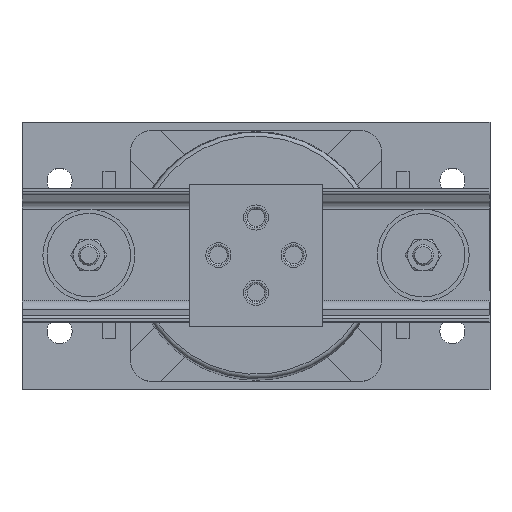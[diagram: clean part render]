
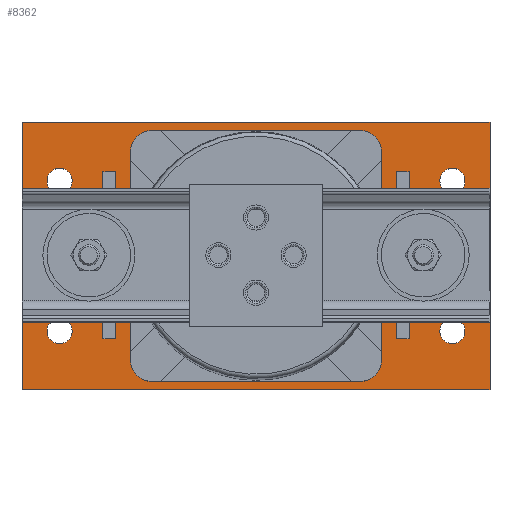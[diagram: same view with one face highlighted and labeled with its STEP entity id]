
A CAD part, top view. The second image highlights one B-rep face of the part: STEP entity #8362.
In plain terms, the highlighted planar face has unit normal (0, 0, 1).
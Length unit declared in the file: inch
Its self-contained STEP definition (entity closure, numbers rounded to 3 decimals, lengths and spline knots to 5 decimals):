
#453=FACE_BOUND('',#1636,.T.);
#454=FACE_BOUND('',#1637,.T.);
#455=FACE_BOUND('',#1638,.T.);
#456=FACE_BOUND('',#1639,.T.);
#653=CIRCLE('',#8949,0.375);
#655=CIRCLE('',#8952,0.375);
#657=CIRCLE('',#8955,0.375);
#659=CIRCLE('',#8958,0.375);
#1083=FACE_OUTER_BOUND('',#1635,.T.);
#1635=EDGE_LOOP('',(#5455,#5456,#5457,#5458));
#1636=EDGE_LOOP('',(#5459));
#1637=EDGE_LOOP('',(#5460));
#1638=EDGE_LOOP('',(#5461));
#1639=EDGE_LOOP('',(#5462));
#2324=LINE('',#12191,#2858);
#2328=LINE('',#12198,#2862);
#2331=LINE('',#12204,#2865);
#2333=LINE('',#12207,#2867);
#2858=VECTOR('',#9978,8.);
#2862=VECTOR('',#9984,14.);
#2865=VECTOR('',#9989,8.);
#2867=VECTOR('',#9993,14.);
#3388=VERTEX_POINT('',#12165);
#3390=VERTEX_POINT('',#12170);
#3392=VERTEX_POINT('',#12175);
#3394=VERTEX_POINT('',#12180);
#3398=VERTEX_POINT('',#12188);
#3399=VERTEX_POINT('',#12190);
#3401=VERTEX_POINT('',#12196);
#3403=VERTEX_POINT('',#12202);
#4174=EDGE_CURVE('',#3388,#3388,#653,.T.);
#4176=EDGE_CURVE('',#3390,#3390,#655,.T.);
#4178=EDGE_CURVE('',#3392,#3392,#657,.T.);
#4180=EDGE_CURVE('',#3394,#3394,#659,.T.);
#4184=EDGE_CURVE('',#3399,#3398,#2324,.T.);
#4188=EDGE_CURVE('',#3398,#3401,#2328,.T.);
#4191=EDGE_CURVE('',#3401,#3403,#2331,.T.);
#4193=EDGE_CURVE('',#3403,#3399,#2333,.T.);
#5455=ORIENTED_EDGE('',*,*,#4193,.T.);
#5456=ORIENTED_EDGE('',*,*,#4184,.T.);
#5457=ORIENTED_EDGE('',*,*,#4188,.T.);
#5458=ORIENTED_EDGE('',*,*,#4191,.T.);
#5459=ORIENTED_EDGE('',*,*,#4174,.T.);
#5460=ORIENTED_EDGE('',*,*,#4176,.T.);
#5461=ORIENTED_EDGE('',*,*,#4178,.T.);
#5462=ORIENTED_EDGE('',*,*,#4180,.T.);
#7466=PLANE('',#8965);
#8362=ADVANCED_FACE('',(#1083,#453,#454,#455,#456),#7466,.F.);
#8949=AXIS2_PLACEMENT_3D('',#12166,#9952,#9953);
#8952=AXIS2_PLACEMENT_3D('',#12171,#9958,#9959);
#8955=AXIS2_PLACEMENT_3D('',#12176,#9964,#9965);
#8958=AXIS2_PLACEMENT_3D('',#12181,#9970,#9971);
#8965=AXIS2_PLACEMENT_3D('',#12209,#9996,#9997);
#9952=DIRECTION('center_axis',(0.,0.,
-1.));
#9953=DIRECTION('ref_axis',(-1.,0.,0.));
#9958=DIRECTION('center_axis',(0.,0.,
-1.));
#9959=DIRECTION('ref_axis',(-1.,0.,0.));
#9964=DIRECTION('center_axis',(0.,0.,
-1.));
#9965=DIRECTION('ref_axis',(-1.,0.,0.));
#9970=DIRECTION('center_axis',(0.,0.,
-1.));
#9971=DIRECTION('ref_axis',(-1.,0.,0.));
#9978=DIRECTION('',(0.,-1.,0.));
#9984=DIRECTION('',(1.,0.,0.));
#9989=DIRECTION('',(0.,1.,0.));
#9993=DIRECTION('',(-1.,0.,0.));
#9996=DIRECTION('center_axis',(0.,0.,
-1.));
#9997=DIRECTION('ref_axis',(-1.,0.,0.));
#12165=CARTESIAN_POINT('',(-5.5,-2.25,0.5));
#12166=CARTESIAN_POINT('Origin',(-5.875,-2.25,0.5));
#12170=CARTESIAN_POINT('',(6.25,-2.25,0.5));
#12171=CARTESIAN_POINT('Origin',(5.875,-2.25,0.5));
#12175=CARTESIAN_POINT('',(-5.5,2.25,0.5));
#12176=CARTESIAN_POINT('Origin',(-5.875,2.25,0.5));
#12180=CARTESIAN_POINT('',(6.25,2.25,0.5));
#12181=CARTESIAN_POINT('Origin',(5.875,2.25,0.5));
#12188=CARTESIAN_POINT('',(-7.,-4.,0.5));
#12190=CARTESIAN_POINT('',(-7.,4.,0.5));
#12191=CARTESIAN_POINT('',(-7.,4.,0.5));
#12196=CARTESIAN_POINT('',(7.,-4.,0.5));
#12198=CARTESIAN_POINT('',(-7.,-4.,0.5));
#12202=CARTESIAN_POINT('',(7.,4.,0.5));
#12204=CARTESIAN_POINT('',(7.,-4.,0.5));
#12207=CARTESIAN_POINT('',(7.,4.,0.5));
#12209=CARTESIAN_POINT('Origin',(0.,0.,
0.5));
